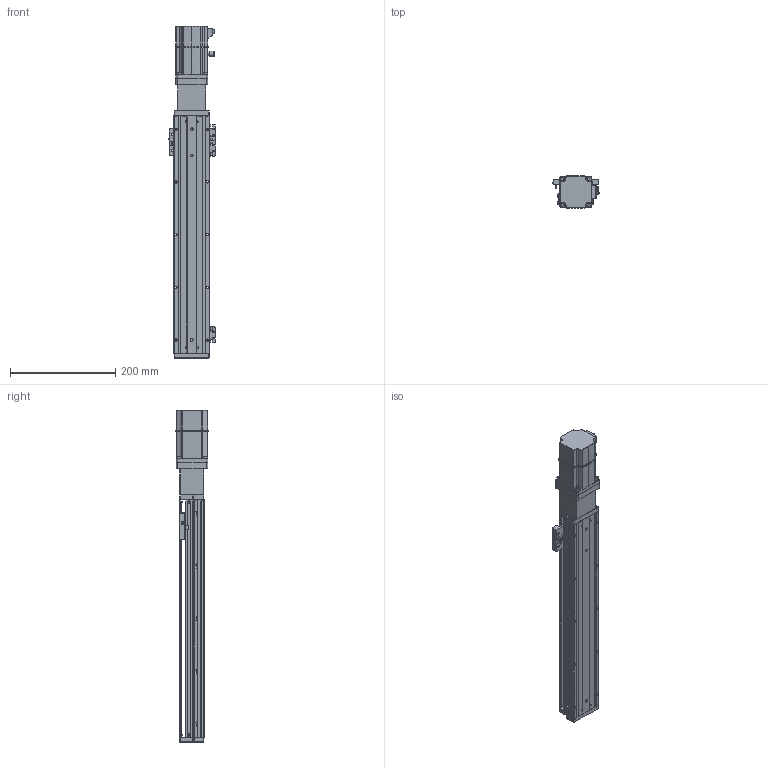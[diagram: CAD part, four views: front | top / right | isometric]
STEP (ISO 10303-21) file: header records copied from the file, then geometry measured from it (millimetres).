
FILE_DESCRIPTION (( 'STEP AP203' ), '1' );
FILE_NAME ('KTHA60-350-BC-M20-C4L.step', '2022-12-16T01:28:48', ( '微软用户' ), ( '微软中国' ), 'SwSTEP 2.0', 'SolidWorks 2020', '' );
FILE_SCHEMA (( 'CONFIG_CONTROL_DESIGN' ));
Length unit declared in the file: millimetre
Products named in the file (18): KTHA60-005; GBT77-2000M3-3; CTHA60-013; GB¨uT 70.2-M3¡Á5_M3¡Á6; GBT 70.1-M3℅6; CTHA60-027; GBT 70.3-M3℅6; CTHA60-016; KTHA60-002; EE_SX911P_R; CTHA60-006-3_M20B; CTHA60-017; _X2_4E0983F1_X0_200W_1; KTHA60-001_450; CTHA60-021; KTHA60-350-BC-M20-C4L; KTHA60-004; GBT 70.1-M4×16
Assembly tree (50 placements, depth 2):
  KTHA60-350-BC-M20-C4L
    KTHA60-001_450
    KTHA60-004
    KTHA60-005
    GB¨uT 70.2-M3¡Á5_M3¡Á6  x6
    GBT 70.3-M3℅6  x6
    EE_SX911P_R  x3
    CTHA60-017  x3
    CTHA60-021  x2
    GBT 70.1-M4×16  x8
    GBT77-2000M3-3  x6
    GBT 70.1-M3℅6  x6
    CTHA60-016  x2
    CTHA60-013
    CTHA60-027
    KTHA60-002
    CTHA60-006-3_M20B
    _X2_4E0983F1_X0_200W_1
Bounding box: 87.72 x 62.42 x 629.7 mm (x, y, z)
Volume: 1265343.6 mm3; surface area: 298547.1 mm2
Topology: 53 solids, 53 shells, 2275 faces, 5371 edges, 3284 vertices
Faces by surface type: plane 1232, cylinder 582, cone 296, torus 80, bspline 69, sphere 16
Entity records: 39539 total; most frequent: CARTESIAN_POINT 7680, DIRECTION 6158, ORIENTED_EDGE 5946, EDGE_CURVE 2973, AXIS2_PLACEMENT_3D 2115, LINE 1928, VECTOR 1928, VERTEX_POINT 1851
